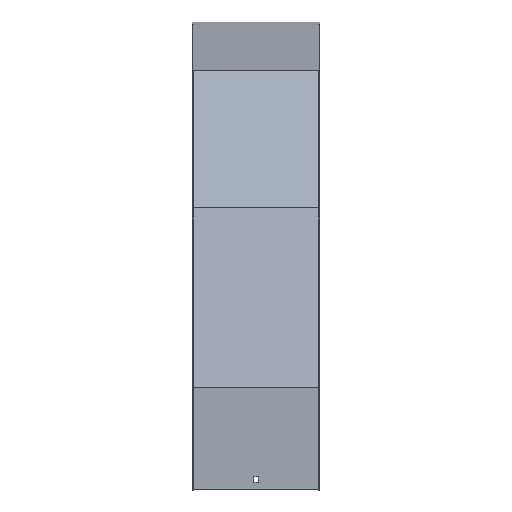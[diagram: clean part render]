
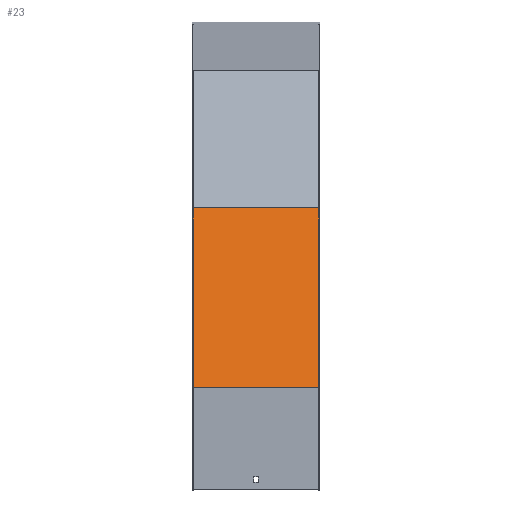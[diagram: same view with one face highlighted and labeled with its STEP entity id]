
A CAD part, top view. The second image highlights one B-rep face of the part: STEP entity #23.
In plain terms, the highlighted planar face has unit normal (0, 0.259, 0.966).
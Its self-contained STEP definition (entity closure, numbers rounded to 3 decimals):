
#12 = EDGE_CURVE ( 'NONE', #271, #17, #1029, .T. ) ;
#17 = VERTEX_POINT ( 'NONE', #496 ) ;
#23 = ADVANCED_FACE ( 'NONE', ( #65 ), #771, .F. ) ;
#38 = EDGE_CURVE ( 'NONE', #566, #187, #490, .T. ) ;
#43 = EDGE_CURVE ( 'NONE', #566, #271, #156, .T. ) ;
#57 = CARTESIAN_POINT ( 'NONE',  ( 101.5, -275.871, 668.509 ) ) ;
#65 = FACE_OUTER_BOUND ( 'NONE', #1001, .T. ) ;
#122 = LINE ( 'NONE', #892, #223 ) ;
#156 = LINE ( 'NONE', #57, #266 ) ;
#187 = VERTEX_POINT ( 'NONE', #886 ) ;
#204 = VECTOR ( 'NONE', #1013, 1000. ) ;
#209 = EDGE_CURVE ( 'NONE', #187, #17, #122, .T. ) ;
#223 = VECTOR ( 'NONE', #472, 1000. ) ;
#231 = CARTESIAN_POINT ( 'NONE',  ( 101.5, -281.047, 669.896 ) ) ;
#237 = DIRECTION ( 'NONE',  ( 0., 0.966, -0.259 ) ) ;
#254 = CARTESIAN_POINT ( 'NONE',  ( 101.5, -281.047, 669.896 ) ) ;
#257 = ORIENTED_EDGE ( 'NONE', *, *, #43, .T. ) ;
#266 = VECTOR ( 'NONE', #944, 1000. ) ;
#271 = VERTEX_POINT ( 'NONE', #743 ) ;
#405 = AXIS2_PLACEMENT_3D ( 'NONE', #231, #408, #237 ) ;
#408 = DIRECTION ( 'NONE',  ( 0., -0.259, -0.966 ) ) ;
#472 = DIRECTION ( 'NONE',  ( -1., 0., 0. ) ) ;
#490 = LINE ( 'NONE', #254, #204 ) ;
#496 = CARTESIAN_POINT ( 'NONE',  ( -101.5, -562.743, 745.376 ) ) ;
#512 = ORIENTED_EDGE ( 'NONE', *, *, #38, .F. ) ;
#566 = VERTEX_POINT ( 'NONE', #718 ) ;
#580 = CARTESIAN_POINT ( 'NONE',  ( -101.5, -281.047, 669.896 ) ) ;
#703 = VECTOR ( 'NONE', #1105, 1000. ) ;
#718 = CARTESIAN_POINT ( 'NONE',  ( 101.5, -275.871, 668.509 ) ) ;
#743 = CARTESIAN_POINT ( 'NONE',  ( -101.5, -275.871, 668.509 ) ) ;
#771 = PLANE ( 'NONE',  #405 ) ;
#886 = CARTESIAN_POINT ( 'NONE',  ( 101.5, -562.743, 745.376 ) ) ;
#888 = ORIENTED_EDGE ( 'NONE', *, *, #209, .F. ) ;
#892 = CARTESIAN_POINT ( 'NONE',  ( 101.5, -562.743, 745.376 ) ) ;
#944 = DIRECTION ( 'NONE',  ( -1., 0., 0. ) ) ;
#1001 = EDGE_LOOP ( 'NONE', ( #1110, #888, #512, #257 ) ) ;
#1013 = DIRECTION ( 'NONE',  ( 0., -0.966, 0.259 ) ) ;
#1029 = LINE ( 'NONE', #580, #703 ) ;
#1105 = DIRECTION ( 'NONE',  ( 0., -0.966, 0.259 ) ) ;
#1110 = ORIENTED_EDGE ( 'NONE', *, *, #12, .T. ) ;
